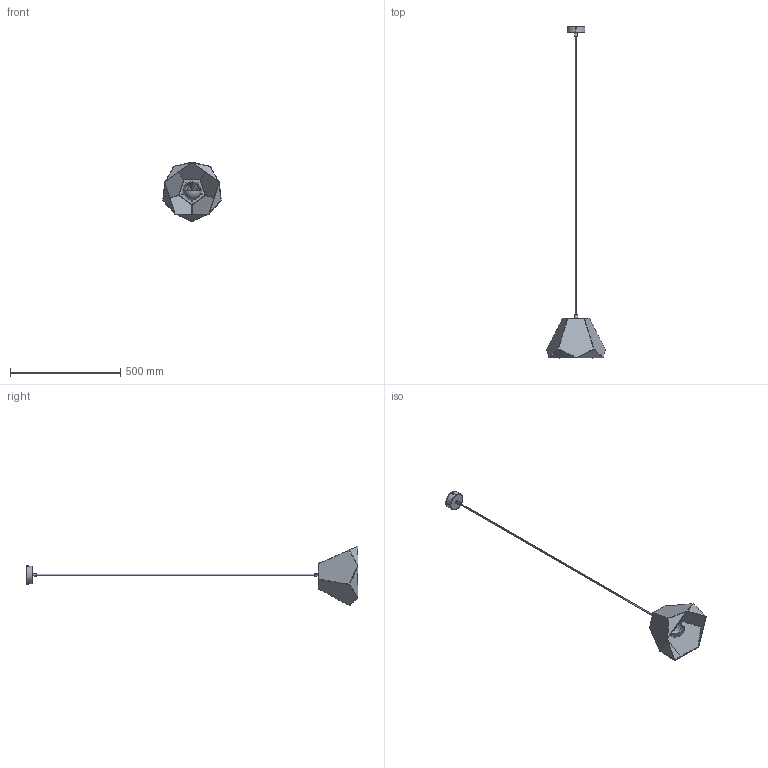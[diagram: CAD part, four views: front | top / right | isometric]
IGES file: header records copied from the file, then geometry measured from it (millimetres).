
Start section: SolidWorks IGES file using analytic representation for surfaces
Global section: file name: E:\3D lampy\Diamond\Diamond_6618\Diamond_6618.IGS; native system: SolidWorks 2016; preprocessor: SolidWorks 2016; author: Asia; date: 170516.144457; units: millimetre
Bounding box: 265.99 x 1507.29 x 270.31 mm (x, y, z)
Surface area: 399786.8 mm2 (no closed solid volume)
Topology: 0 solids, 0 shells, 938 faces, 12971 edges, 12969 vertices
Faces by surface type: revolution 511, bspline 427
